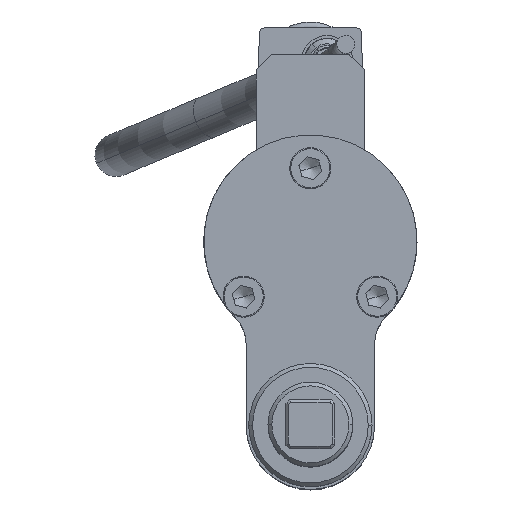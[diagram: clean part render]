
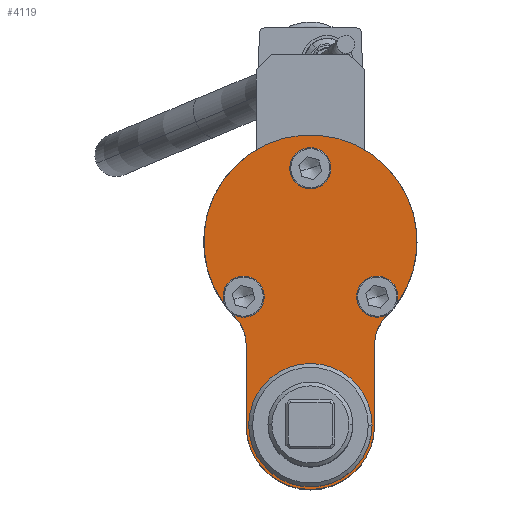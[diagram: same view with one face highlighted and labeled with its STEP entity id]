
A CAD part, top view. The second image highlights one B-rep face of the part: STEP entity #4119.
In plain terms, the highlighted planar face has unit normal (0, 0, 1).
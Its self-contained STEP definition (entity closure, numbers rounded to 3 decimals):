
#3855=AXIS2_PLACEMENT_3D('Circle Axis2P3D',#3853,#3854,$) ;
#3881=AXIS2_PLACEMENT_3D('Circle Axis2P3D',#3879,#3880,$) ;
#3984=AXIS2_PLACEMENT_3D('Circle Axis2P3D',#3982,#3983,$) ;
#4010=AXIS2_PLACEMENT_3D('Circle Axis2P3D',#4008,#4009,$) ;
#4023=AXIS2_PLACEMENT_3D('Plane Axis2P3D',#4020,#4021,#4022) ;
#4027=AXIS2_PLACEMENT_3D('Circle Axis2P3D',#4025,#4026,$) ;
#4036=AXIS2_PLACEMENT_3D('Circle Axis2P3D',#4034,#4035,$) ;
#4050=AXIS2_PLACEMENT_3D('Circle Axis2P3D',#4048,#4049,$) ;
#4064=AXIS2_PLACEMENT_3D('Circle Axis2P3D',#4062,#4063,$) ;
#4077=AXIS2_PLACEMENT_3D('Circle Axis2P3D',#4075,#4076,$) ;
#4086=AXIS2_PLACEMENT_3D('Circle Axis2P3D',#4084,#4085,$) ;
#4099=AXIS2_PLACEMENT_3D('Circle Axis2P3D',#4097,#4098,$) ;
#4108=AXIS2_PLACEMENT_3D('Circle Axis2P3D',#4106,#4107,$) ;
#3853=CARTESIAN_POINT('Axis2P3D Location',(26.,-21.5,580.6)) ;
#3857=CARTESIAN_POINT('Vertex',(21.447,-19.013,580.6)) ;
#3859=CARTESIAN_POINT('Vertex',(30.553,-23.987,580.6)) ;
#3879=CARTESIAN_POINT('Axis2P3D Location',(26.,-21.5,580.6)) ;
#3982=CARTESIAN_POINT('Axis2P3D Location',(-26.,-21.5,580.6)) ;
#3986=CARTESIAN_POINT('Vertex',(-30.553,-19.013,580.6)) ;
#3988=CARTESIAN_POINT('Vertex',(-21.447,-23.987,580.6)) ;
#4008=CARTESIAN_POINT('Axis2P3D Location',(-26.,-21.5,580.6)) ;
#4020=CARTESIAN_POINT('Axis2P3D Location',(0.,0.,580.6)) ;
#4025=CARTESIAN_POINT('Axis2P3D Location',(0.,0.,580.6)) ;
#4029=CARTESIAN_POINT('Vertex',(29.381,-29.309,580.6)) ;
#4031=CARTESIAN_POINT('Vertex',(-29.381,-29.309,580.6)) ;
#4034=CARTESIAN_POINT('Axis2P3D Location',(-40.,-39.903,580.6)) ;
#4038=CARTESIAN_POINT('Vertex',(-25.,-39.903,580.6)) ;
#4041=CARTESIAN_POINT('Line Origine',(-25.,-55.702,580.6)) ;
#4045=CARTESIAN_POINT('Vertex',(-25.,-71.5,580.6)) ;
#4048=CARTESIAN_POINT('Axis2P3D Location',(0.,-71.5,580.6)) ;
#4052=CARTESIAN_POINT('Vertex',(25.,-71.5,580.6)) ;
#4055=CARTESIAN_POINT('Line Origine',(25.,-55.702,580.6)) ;
#4059=CARTESIAN_POINT('Vertex',(25.,-39.903,580.6)) ;
#4062=CARTESIAN_POINT('Axis2P3D Location',(40.,-39.903,580.6)) ;
#4075=CARTESIAN_POINT('Axis2P3D Location',(0.,28.5,580.6)) ;
#4079=CARTESIAN_POINT('Vertex',(-4.553,30.987,580.6)) ;
#4081=CARTESIAN_POINT('Vertex',(4.553,26.013,580.6)) ;
#4084=CARTESIAN_POINT('Axis2P3D Location',(0.,28.5,580.6)) ;
#4097=CARTESIAN_POINT('Axis2P3D Location',(0.,-71.5,580.6)) ;
#4101=CARTESIAN_POINT('Vertex',(24.,-71.5,580.6)) ;
#4103=CARTESIAN_POINT('Vertex',(-24.,-71.5,580.6)) ;
#4106=CARTESIAN_POINT('Axis2P3D Location',(0.,-71.5,580.6)) ;
#3854=DIRECTION('Axis2P3D Direction',(0.,-0.,1.)) ;
#3880=DIRECTION('Axis2P3D Direction',(0.,-0.,1.)) ;
#3983=DIRECTION('Axis2P3D Direction',(0.,-0.,1.)) ;
#4009=DIRECTION('Axis2P3D Direction',(0.,-0.,1.)) ;
#4021=DIRECTION('Axis2P3D Direction',(0.,0.,1.)) ;
#4022=DIRECTION('Axis2P3D XDirection',(1.,0.,0.)) ;
#4026=DIRECTION('Axis2P3D Direction',(0.,-0.,1.)) ;
#4035=DIRECTION('Axis2P3D Direction',(0.,-0.,1.)) ;
#4042=DIRECTION('Vector Direction',(0.,1.,0.)) ;
#4049=DIRECTION('Axis2P3D Direction',(0.,-0.,1.)) ;
#4056=DIRECTION('Vector Direction',(0.,1.,0.)) ;
#4063=DIRECTION('Axis2P3D Direction',(0.,-0.,1.)) ;
#4076=DIRECTION('Axis2P3D Direction',(0.,-0.,1.)) ;
#4085=DIRECTION('Axis2P3D Direction',(0.,-0.,1.)) ;
#4098=DIRECTION('Axis2P3D Direction',(0.,-0.,1.)) ;
#4107=DIRECTION('Axis2P3D Direction',(0.,-0.,1.)) ;
#4043=VECTOR('Line Direction',#4042,1.) ;
#4057=VECTOR('Line Direction',#4056,1.) ;
#4068=ORIENTED_EDGE('',*,*,#4033,.T.) ;
#4069=ORIENTED_EDGE('',*,*,#4040,.T.) ;
#4070=ORIENTED_EDGE('',*,*,#4047,.T.) ;
#4071=ORIENTED_EDGE('',*,*,#4054,.T.) ;
#4072=ORIENTED_EDGE('',*,*,#4061,.T.) ;
#4073=ORIENTED_EDGE('',*,*,#4066,.T.) ;
#4090=ORIENTED_EDGE('',*,*,#4083,.F.) ;
#4091=ORIENTED_EDGE('',*,*,#4088,.F.) ;
#4094=ORIENTED_EDGE('',*,*,#3990,.F.) ;
#4095=ORIENTED_EDGE('',*,*,#4012,.F.) ;
#4112=ORIENTED_EDGE('',*,*,#4105,.F.) ;
#4113=ORIENTED_EDGE('',*,*,#4110,.F.) ;
#4116=ORIENTED_EDGE('',*,*,#3861,.F.) ;
#4117=ORIENTED_EDGE('',*,*,#3883,.F.) ;
#4092=FACE_BOUND('',#4089,.T.) ;
#4096=FACE_BOUND('',#4093,.T.) ;
#4114=FACE_BOUND('',#4111,.T.) ;
#4118=FACE_BOUND('',#4115,.T.) ;
#4119=ADVANCED_FACE('AOD-350-300.1\\AOD350-300.1\\Hauptk\X2\00F6\X0\rper',(#4074,#4092,#4096,#4114,#4118),#4024,.T.) ;
#3856=CIRCLE('generated circle',#3855,5.188) ;
#3882=CIRCLE('generated circle',#3881,5.188) ;
#3985=CIRCLE('generated circle',#3984,5.188) ;
#4011=CIRCLE('generated circle',#4010,5.188) ;
#4028=CIRCLE('generated circle',#4027,41.5) ;
#4037=CIRCLE('generated circle',#4036,15.) ;
#4051=CIRCLE('generated circle',#4050,25.) ;
#4065=CIRCLE('generated circle',#4064,15.) ;
#4078=CIRCLE('generated circle',#4077,5.188) ;
#4087=CIRCLE('generated circle',#4086,5.188) ;
#4100=CIRCLE('generated circle',#4099,24.) ;
#4109=CIRCLE('generated circle',#4108,24.) ;
#3861=EDGE_CURVE('',#3858,#3860,#3856,.T.) ;
#3883=EDGE_CURVE('',#3860,#3858,#3882,.T.) ;
#3990=EDGE_CURVE('',#3987,#3989,#3985,.T.) ;
#4012=EDGE_CURVE('',#3989,#3987,#4011,.T.) ;
#4033=EDGE_CURVE('',#4030,#4032,#4028,.T.) ;
#4040=EDGE_CURVE('',#4032,#4039,#4037,.F.) ;
#4047=EDGE_CURVE('',#4039,#4046,#4044,.F.) ;
#4054=EDGE_CURVE('',#4046,#4053,#4051,.T.) ;
#4061=EDGE_CURVE('',#4053,#4060,#4058,.T.) ;
#4066=EDGE_CURVE('',#4060,#4030,#4065,.F.) ;
#4083=EDGE_CURVE('',#4080,#4082,#4078,.T.) ;
#4088=EDGE_CURVE('',#4082,#4080,#4087,.T.) ;
#4105=EDGE_CURVE('',#4102,#4104,#4100,.T.) ;
#4110=EDGE_CURVE('',#4104,#4102,#4109,.T.) ;
#4067=EDGE_LOOP('',(#4068,#4069,#4070,#4071,#4072,#4073)) ;
#4089=EDGE_LOOP('',(#4090,#4091)) ;
#4093=EDGE_LOOP('',(#4094,#4095)) ;
#4111=EDGE_LOOP('',(#4112,#4113)) ;
#4115=EDGE_LOOP('',(#4116,#4117)) ;
#4074=FACE_OUTER_BOUND('',#4067,.T.) ;
#4044=LINE('Line',#4041,#4043) ;
#4058=LINE('Line',#4055,#4057) ;
#4024=PLANE('Plane',#4023) ;
#3858=VERTEX_POINT('',#3857) ;
#3860=VERTEX_POINT('',#3859) ;
#3987=VERTEX_POINT('',#3986) ;
#3989=VERTEX_POINT('',#3988) ;
#4030=VERTEX_POINT('',#4029) ;
#4032=VERTEX_POINT('',#4031) ;
#4039=VERTEX_POINT('',#4038) ;
#4046=VERTEX_POINT('',#4045) ;
#4053=VERTEX_POINT('',#4052) ;
#4060=VERTEX_POINT('',#4059) ;
#4080=VERTEX_POINT('',#4079) ;
#4082=VERTEX_POINT('',#4081) ;
#4102=VERTEX_POINT('',#4101) ;
#4104=VERTEX_POINT('',#4103) ;
